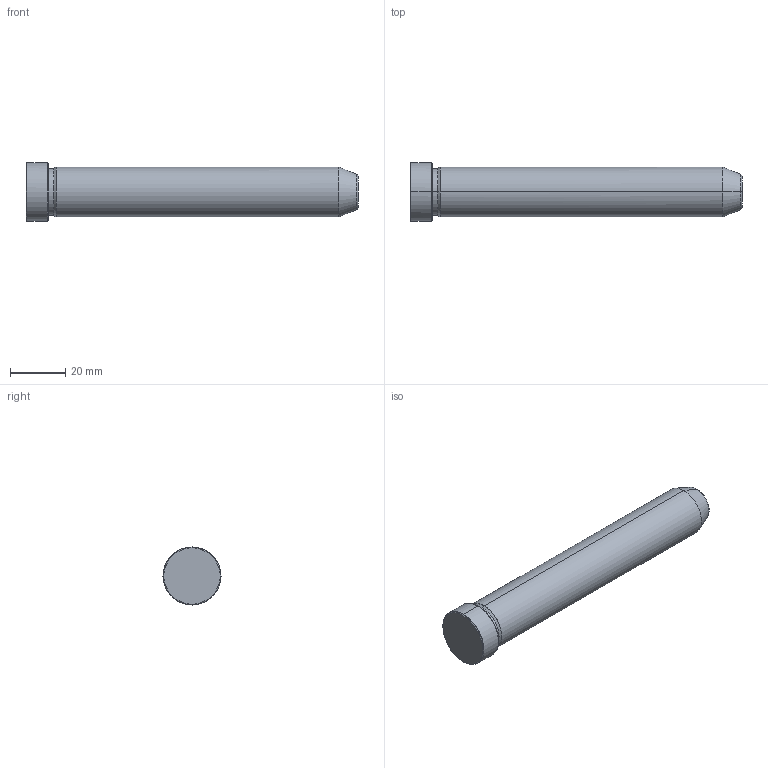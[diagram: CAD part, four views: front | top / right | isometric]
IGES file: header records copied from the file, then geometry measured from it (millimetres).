
Start section: START RECORD GO HERE.
Global section: file name: 549-18X120.igs; native system: DASSAULT SYSTEMES CATIA V5 R20 - www.3ds.com; preprocessor: CATIA Version 5 Release 20 ; author: Utente; organization: NB04-ASUS; date: 20211211.104209; units: millimetre
Bounding box: 120 x 21 x 21 mm (x, y, z)
Surface area: 7380.5 mm2 (no closed solid volume)
Topology: 0 solids, 0 shells, 19 faces, 112 edges, 112 vertices
Faces by surface type: revolution 16, plane 3
